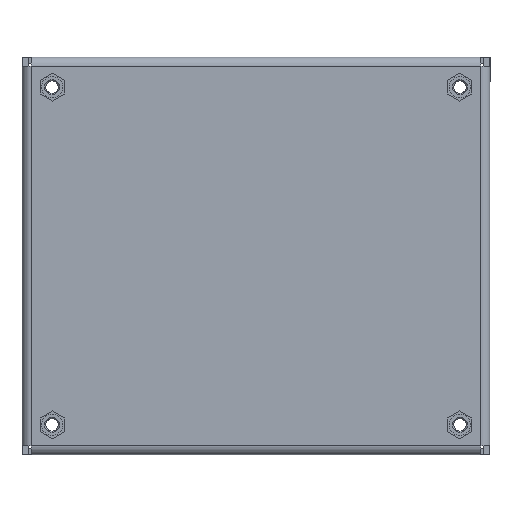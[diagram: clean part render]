
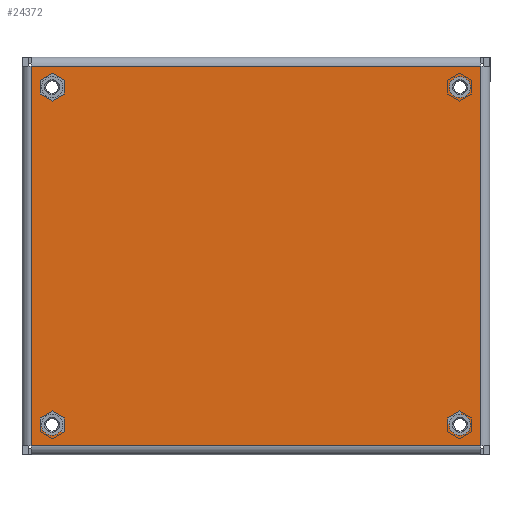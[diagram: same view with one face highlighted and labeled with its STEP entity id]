
A CAD part, front view. The second image highlights one B-rep face of the part: STEP entity #24372.
In plain terms, the highlighted planar face has unit normal (0, -1, 0) as drawn and (0, 0, -1) by its records, which use the part's own axes.
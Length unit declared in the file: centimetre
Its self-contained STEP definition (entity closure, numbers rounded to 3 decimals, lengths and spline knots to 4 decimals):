
#13860=CIRCLE('',#25021,0.211);
#13862=CIRCLE('',#25024,0.211);
#13864=CIRCLE('',#25027,0.211);
#13866=CIRCLE('',#25030,0.211);
#14171=VERTEX_POINT('',#29779);
#14198=VERTEX_POINT('',#29847);
#14212=VERTEX_POINT('',#29886);
#14214=VERTEX_POINT('',#29891);
#14216=VERTEX_POINT('',#29896);
#14218=VERTEX_POINT('',#29901);
#14219=VERTEX_POINT('',#29911);
#14221=VERTEX_POINT('',#29944);
#15306=VECTOR('',#26448,1.);
#15312=VECTOR('',#26465,1.);
#15319=VECTOR('',#26484,1.);
#15325=VECTOR('',#26502,1.);
#16571=LINE('',#29921,#15306);
#16577=LINE('',#29934,#15312);
#16584=LINE('',#29951,#15319);
#16590=LINE('',#29965,#15325);
#17837=EDGE_CURVE('',#14212,#14212,#13860,.T.);
#17839=EDGE_CURVE('',#14214,#14214,#13862,.T.);
#17841=EDGE_CURVE('',#14216,#14216,#13864,.T.);
#17843=EDGE_CURVE('',#14218,#14218,#13866,.T.);
#17854=EDGE_CURVE('',#14171,#14219,#16571,.T.);
#17862=EDGE_CURVE('',#14219,#14198,#16577,.T.);
#17871=EDGE_CURVE('',#14198,#14221,#16584,.T.);
#17879=EDGE_CURVE('',#14221,#14171,#16590,.T.);
#19653=ORIENTED_EDGE('',*,*,#17837,.T.);
#19654=ORIENTED_EDGE('',*,*,#17839,.T.);
#19655=ORIENTED_EDGE('',*,*,#17841,.T.);
#19656=ORIENTED_EDGE('',*,*,#17843,.T.);
#19657=ORIENTED_EDGE('',*,*,#17879,.F.);
#19658=ORIENTED_EDGE('',*,*,#17871,.F.);
#19659=ORIENTED_EDGE('',*,*,#17862,.F.);
#19660=ORIENTED_EDGE('',*,*,#17854,.F.);
#22848=EDGE_LOOP('',(#19653));
#22849=EDGE_LOOP('',(#19654));
#22850=EDGE_LOOP('',(#19655));
#22851=EDGE_LOOP('',(#19656));
#22852=EDGE_LOOP('',(#19657,#19658,#19659,#19660));
#23614=FACE_BOUND('',#22848,.T.);
#23615=FACE_BOUND('',#22849,.T.);
#23616=FACE_BOUND('',#22850,.T.);
#23617=FACE_BOUND('',#22851,.T.);
#23618=FACE_BOUND('',#22852,.T.);
#24372=ADVANCED_FACE('',(#23614,#23615,#23616,#23617,#23618),#34328,.F.);
#25021=AXIS2_PLACEMENT_3D('',#29885,#26405,#26406);
#25024=AXIS2_PLACEMENT_3D('',#29890,#26411,#26412);
#25027=AXIS2_PLACEMENT_3D('',#29895,#26417,#26418);
#25030=AXIS2_PLACEMENT_3D('',#29900,#26423,#26424);
#25066=AXIS2_PLACEMENT_3D('',#29967,#26504,$);
#26405=DIRECTION('',(0.,0.,1.));
#26406=DIRECTION('',(0.211,0.,0.));
#26411=DIRECTION('',(0.,0.,1.));
#26412=DIRECTION('',(0.211,0.,0.));
#26417=DIRECTION('',(0.,0.,1.));
#26418=DIRECTION('',(0.211,0.,0.));
#26423=DIRECTION('',(0.,0.,1.));
#26424=DIRECTION('',(0.211,0.,0.));
#26448=DIRECTION('',(1.,0.,0.));
#26465=DIRECTION('',(0.,1.,0.));
#26484=DIRECTION('',(-1.,0.,0.));
#26502=DIRECTION('',(0.,-1.,0.));
#26504=DIRECTION('',(0.,0.,1.));
#29779=CARTESIAN_POINT('',(-3.7846,-4.4831,0.));
#29847=CARTESIAN_POINT('',(3.7846,4.4831,0.));
#29885=CARTESIAN_POINT('',(-3.3655,-4.064,0.));
#29886=CARTESIAN_POINT('',(-3.5765,-4.064,0.));
#29890=CARTESIAN_POINT('',(3.3655,-4.064,0.));
#29891=CARTESIAN_POINT('',(3.1545,-4.064,0.));
#29895=CARTESIAN_POINT('',(-3.3655,4.064,0.));
#29896=CARTESIAN_POINT('',(-3.5765,4.064,0.));
#29900=CARTESIAN_POINT('',(3.3655,4.064,0.));
#29901=CARTESIAN_POINT('',(3.1545,4.064,0.));
#29911=CARTESIAN_POINT('',(3.7846,-4.4831,0.));
#29921=CARTESIAN_POINT('',(-3.7846,-4.4831,0.));
#29934=CARTESIAN_POINT('',(3.7846,-4.4831,0.));
#29944=CARTESIAN_POINT('',(-3.7846,4.4831,0.));
#29951=CARTESIAN_POINT('',(3.7846,4.4831,0.));
#29965=CARTESIAN_POINT('',(-3.7846,4.4831,0.));
#29967=CARTESIAN_POINT('',(0.,0.,0.));
#34328=PLANE('',#25066);
